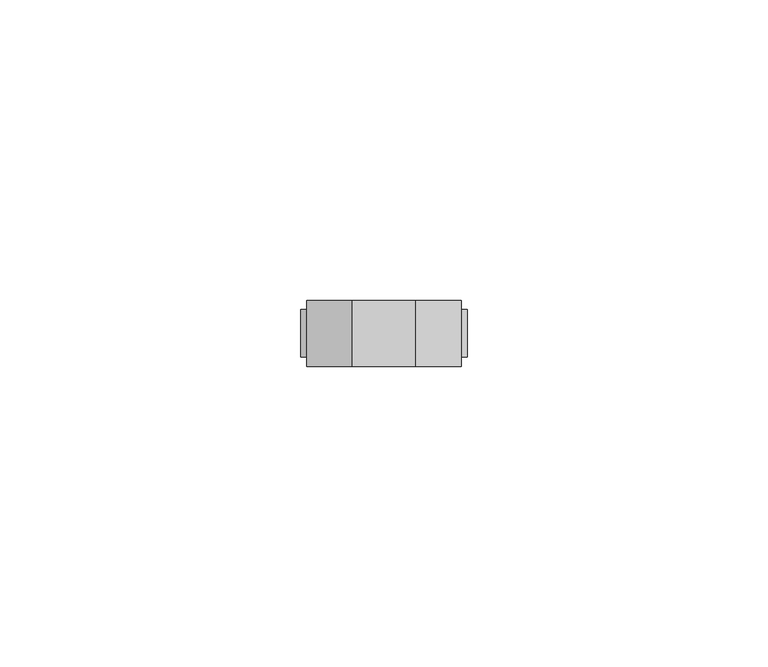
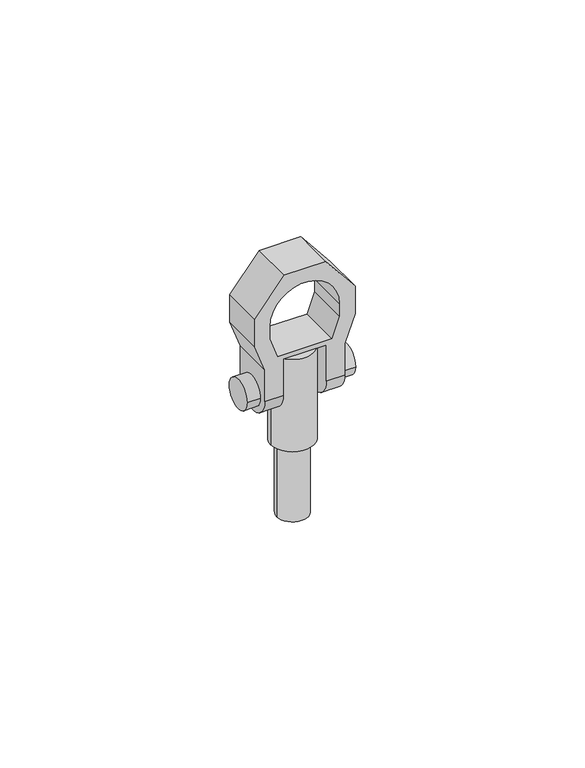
"""IFC4 building model written with IfcOpenShell, lengths in millimetres: proxy geometry, d&b Flying Pin : Flying Pin."""

from ifc_helpers import new_model, si_unit, point, frame, frame_2d, origin, place, context, project, spatial, polyline, circle_curve, trimmed, segment, composite_curve, outline, extrude, source, transform, mapped, element, save
from ifc_brep_helpers import plane_surface, cylinder_surface, revolved_surface, advanced_brep


def communication_devices_ba55d804(model_context):
    return source(origin(), model_context, "Body", "SolidModel", [
        advanced_brep(
        [(-12.8551205, 5.5, 32.3798697), (-12.8551205, 5.5, 39.8221004), (-5.2894267, 5.5, 49.1649541), (5.2894267, 5.5, 49.1649541), (12.8551205, 5.5, 39.8221004), (12.8551205, 5.5, 32.3798697), (10.2317184, 5.5, 25.1721318), (10.2317184, 5.5, 16.7202268), (5.5, 5.5, 16.7202268), (5.5, 5.5, 26.4726394), (-5.5, 5.5, 26.4726394), (-5.5, 5.5, 16.7202268), (-10.2317184, 5.5, 16.7202268), (-10.2317184, 5.5, 25.1721318), (-6.9108191, 5.5, 27.7432536), (6.9108191, 5.5, 27.7432536), (8.8551205, 5.5, 33.0851776), (8.8551205, 5.5, 36.4733828), (-8.8551205, 5.5, 36.4733828), (-8.8551205, 5.5, 33.0851776), (-12.8551205, -5.5, 32.3798697), (-10.2317184, -5.5, 25.1721318), (-10.2317184, -5.5, 16.7202268), (-5.5, -5.5, 16.7202268), (-5.5, -5.5, 26.4726394), (5.5, -5.5, 26.4726394), (5.5, -5.5, 16.7202268), (10.2317184, -5.5, 16.7202268), (10.2317184, -5.5, 25.1721318), (12.8551205, -5.5, 32.3798697), (12.8551205, -5.5, 39.8221004), (5.2894267, -5.5, 49.1649541), (-5.2894267, -5.5, 49.1649541), (-12.8551205, -5.5, 39.8221004), (-6.9108191, -5.5, 27.7432536), (-8.8551205, -5.5, 33.0851776), (-8.8551205, -5.5, 36.4733828), (8.8551205, -5.5, 36.4733828), (8.8551205, -5.5, 33.0851776), (6.9108191, -5.5, 27.7432536)],
        [
            (0, 1),
            (1, 2),
            (2, 3),
            (3, 4),
            (4, 5),
            (5, 6),
            (6, 7),
            (7, 8),
            (8, 9),
            (9, 10),
            (10, 11),
            (11, 12),
            (12, 13),
            (13, 0),
            (14, 15),
            (15, 16),
            (16, 17),
            (17, 18, circle_curve(frame((0.0, 5.5, 36.4733828), z_axis=(0.0, -1.0, 0.0), x_axis=(1.0, 0.0, 0.0)), 8.8551205)),
            (18, 19),
            (19, 14),
            (20, 21),
            (21, 22),
            (22, 23),
            (23, 24),
            (24, 25),
            (25, 26),
            (26, 27),
            (27, 28),
            (28, 29),
            (29, 30),
            (30, 31),
            (31, 32),
            (32, 33),
            (33, 20),
            (34, 35),
            (35, 36),
            (36, 37, circle_curve(frame((0.0, -5.5, 36.4733828), z_axis=(0.0, 1.0, 0.0), x_axis=(1.0, 0.0, 0.0)), 8.8551205)),
            (37, 38),
            (38, 39),
            (39, 34),
            (9, 25),
            (24, 10),
            (8, 26, circle_curve(frame((5.5, 0.0, 16.7202268), z_axis=(-1.0, 0.0, 0.0), x_axis=(0.0, -1.0, 0.0)), 5.5)),
            (6, 28),
            (27, 7, circle_curve(frame((10.2317184, 0.0, 16.7202268), z_axis=(1.0, 0.0, 0.0), x_axis=(0.0, -1.0, 0.0)), 5.5)),
            (5, 29),
            (4, 30),
            (3, 31),
            (2, 32),
            (1, 33),
            (0, 20),
            (13, 21),
            (19, 35),
            (34, 14),
            (18, 36),
            (17, 37),
            (16, 38),
            (15, 39),
            (12, 22, circle_curve(frame((-10.2317184, 0.0, 16.7202268), z_axis=(-1.0, 0.0, 0.0), x_axis=(0.0, -1.0, 0.0)), 5.5)),
            (23, 11, circle_curve(frame((-5.5, 0.0, 16.7202268), z_axis=(1.0, 0.0, 0.0), x_axis=(0.0, -1.0, 0.0)), 5.5)),
        ],
        [
            plane_surface(frame((-10.2317184, 5.5, 25.1721318), z_axis=(0.0, 1.0, 0.0), x_axis=(-0.3420201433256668, 0.0, 0.9396926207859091))),
            plane_surface(frame((-10.2317184, -5.5, 25.1721318), z_axis=(0.0, -1.0, 0.0), x_axis=(0.3420201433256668, 0.0, -0.9396926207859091))),
            plane_surface(frame((-5.5, -5.5, 26.4726394), z_axis=(0.0, 0.0, -1.0), x_axis=(0.0, 1.0, 0.0))),
            plane_surface(frame((5.5, -5.5, 26.4726394), z_axis=(-1.0, 0.0, 0.0), x_axis=(0.0, 1.0, 0.0))),
            plane_surface(frame((10.2317184, -5.5, 16.7202268), z_axis=(1.0, 0.0, 0.0), x_axis=(0.0, 1.0, 0.0))),
            plane_surface(frame((10.2317184, -5.5, 25.1721318), z_axis=(0.9396926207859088, 0.0, -0.3420201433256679), x_axis=(0.0, 1.0, 0.0))),
            plane_surface(frame((12.8551205, -5.5, 32.3798697), z_axis=(1.0, 0.0, 0.0), x_axis=(0.0, 1.0, 0.0))),
            plane_surface(frame((12.8551205, -5.5, 39.8221004), z_axis=(0.7771459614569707, 0.0, 0.6293203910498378), x_axis=(0.0, 1.0, 0.0))),
            plane_surface(frame((5.2894267, -5.5, 49.1649541), z_axis=(0.0, 0.0, 1.0), x_axis=(0.0, 1.0, 0.0))),
            plane_surface(frame((-5.2894267, -5.5, 49.1649541), z_axis=(-0.7771459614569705, 0.0, 0.6293203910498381), x_axis=(0.0, 1.0, 0.0))),
            plane_surface(frame((-12.8551205, -5.5, 39.8221004), z_axis=(-1.0, 0.0, 0.0), x_axis=(0.0, 1.0, 0.0))),
            plane_surface(frame((-12.8551205, -5.5, 32.3798697), z_axis=(-0.9396926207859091, 0.0, -0.3420201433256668), x_axis=(0.0, 1.0, 0.0))),
            plane_surface(frame((-6.9108191, -5.5, 27.7432536), z_axis=(0.939692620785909, 0.0, 0.342020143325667), x_axis=(0.0, 1.0, 0.0))),
            plane_surface(frame((-8.8551205, -5.5, 33.0851776), z_axis=(1.0, 0.0, 0.0), x_axis=(0.0, 1.0, 0.0))),
            revolved_surface(polyline([(8.8551205, 5.5, 36.4733828), (8.8551205, -5.5, 36.4733828)]), (0.0, 0.0, 36.4733828), (0.0, 1.0, 0.0)),
            plane_surface(frame((8.8551205, -5.5, 36.4733828), z_axis=(-1.0, 0.0, 0.0), x_axis=(0.0, 1.0, 0.0))),
            plane_surface(frame((8.8551205, -5.5, 33.0851776), z_axis=(-0.939692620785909, 0.0, 0.3420201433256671), x_axis=(0.0, 1.0, 0.0))),
            plane_surface(frame((6.9108191, -5.5, 27.7432536), z_axis=(0.0, 0.0, 1.0), x_axis=(0.0, 1.0, 0.0))),
            plane_surface(frame((-10.2317184, -5.5, 25.1721318), z_axis=(-1.0, 0.0, 0.0), x_axis=(0.0, 1.0, 0.0))),
            plane_surface(frame((-5.5, -5.5, 16.7202268), z_axis=(1.0, 0.0, 0.0), x_axis=(0.0, 1.0, 0.0))),
            cylinder_surface(frame((5.5, 0.0, 16.7202268), z_axis=(1.0, 0.0, 0.0), x_axis=(0.0, -1.0, 0.0)), 5.5),
            cylinder_surface(frame((-5.5, 0.0, 16.7202268), z_axis=(-1.0, 0.0, 0.0), x_axis=(0.0, -1.0, 0.0)), 5.5),
        ],
        [
            (0, [[1, 2, 3, 4, 5, 6, 7, 8, 9, 10, 11, 12, 13, 14], [15, 16, 17, 18, 19, 20]]),
            (1, [[21, 22, 23, 24, 25, 26, 27, 28, 29, 30, 31, 32, 33, 34], [35, 36, 37, 38, 39, 40]]),
            (2, [[-10, 41, -25, 42]]),
            (3, [[-9, 43, -26, -41]]),
            (4, [[-7, 44, -28, 45]]),
            (5, [[-6, 46, -29, -44]]),
            (6, [[-5, 47, -30, -46]]),
            (7, [[-4, 48, -31, -47]]),
            (8, [[-3, 49, -32, -48]]),
            (9, [[-2, 50, -33, -49]]),
            (10, [[-1, 51, -34, -50]]),
            (11, [[-14, 52, -21, -51]]),
            (12, [[-20, 53, -35, 54]]),
            (13, [[-19, 55, -36, -53]]),
            (14, [[-18, 56, -37, -55]]),
            (15, [[-17, 57, -38, -56]]),
            (16, [[-16, 58, -39, -57]]),
            (17, [[-15, -54, -40, -58]]),
            (18, [[-13, 59, -22, -52]]),
            (19, [[-11, -42, -24, 60]]),
            (20, [[-45, -27, -43, -8]]),
            (21, [[-59, -12, -60, -23]]),
        ],
    ),
        advanced_brep(
        [(5.5, 0.0, 0.0), (-5.5, 0.0, 0.0), (-5.5, 0.0, 24.9683706), (5.5, 0.0, 24.9683706), (4.0, 0.0, 0.0), (-4.0, 0.0, 0.0), (4.0, 0.0, -20.0), (-4.0, 0.0, -20.0), (0.0, 0.0, -20.0), (0.0, 0.0, 24.9683706)],
        [
            (0, 1, circle_curve(frame((0.0, 0.0, 0.0), z_axis=(0.0, 0.0, 1.0), x_axis=(-1.0, 0.0, 0.0)), 5.5)),
            (1, 2),
            (2, 3, circle_curve(frame((0.0, 0.0, 24.9683706), z_axis=(0.0, 0.0, -1.0), x_axis=(-1.0, 0.0, 0.0)), 5.5)),
            (3, 0),
            (1, 0, circle_curve(frame((0.0, 0.0, 0.0), z_axis=(0.0, 0.0, 1.0), x_axis=(-1.0, 0.0, 0.0)), 5.5)),
            (3, 2, circle_curve(frame((0.0, 0.0, 24.9683706), z_axis=(0.0, 0.0, -1.0), x_axis=(-1.0, 0.0, 0.0)), 5.5)),
            (4, 5, circle_curve(frame((0.0, 0.0, 0.0), z_axis=(0.0, 0.0, 1.0), x_axis=(-1.0, 0.0, 0.0)), 4.0)),
            (5, 1),
            (0, 4),
            (5, 4, circle_curve(frame((0.0, 0.0, 0.0), z_axis=(0.0, 0.0, 1.0), x_axis=(-1.0, 0.0, 0.0)), 4.0)),
            (6, 7, circle_curve(frame((0.0, 0.0, -20.0), z_axis=(0.0, 0.0, 1.0), x_axis=(-1.0, 0.0, 0.0)), 4.0)),
            (7, 5),
            (4, 6),
            (7, 6, circle_curve(frame((0.0, 0.0, -20.0), z_axis=(0.0, 0.0, 1.0), x_axis=(-1.0, 0.0, 0.0)), 4.0)),
            (8, 7),
            (6, 8),
            (2, 9),
            (9, 3),
        ],
        [
            cylinder_surface(frame((0.0, 0.0, 49.9683706), z_axis=(0.0, 0.0, -1.0), x_axis=(-1.0, 0.0, 0.0)), 5.5),
            plane_surface(frame((0.0, 0.0, 0.0), z_axis=(0.0, 0.0, -1.0), x_axis=(-1.0, 0.0, 0.0))),
            cylinder_surface(frame((0.0, 0.0, 49.9683706), z_axis=(0.0, 0.0, -1.0), x_axis=(-1.0, 0.0, 0.0)), 4.0),
            plane_surface(frame((0.0, 0.0, -20.0), z_axis=(0.0, 0.0, -1.0), x_axis=(-1.0, 0.0, 0.0))),
            plane_surface(frame((0.0, 0.0, 24.9683706), z_axis=(0.0, 0.0, 1.0), x_axis=(-1.0, 0.0, 0.0))),
        ],
        [
            (0, [[1, 2, 3, 4]]),
            (0, [[5, -4, 6, -2]]),
            (1, [[7, 8, -1, 9]]),
            (1, [[10, -9, -5, -8]]),
            (2, [[11, 12, -7, 13]]),
            (2, [[14, -13, -10, -12]]),
            (3, [[15, -11, 16]]),
            (3, [[-16, -14, -15]]),
            (4, [[-3, 17, 18]]),
            (4, [[-6, -18, -17]]),
        ],
    ),
        extrude(outline(composite_curve([segment(trimmed(circle_curve(frame_2d((0.0, 16.7202268)), 3.9556461), [point((3.9556461, 16.7202268))], [point((-3.9556461, 16.7202268))], False, "CARTESIAN"), True, "CONTINUOUS"), segment(trimmed(circle_curve(frame_2d((0.0, 16.7202268)), 3.9556461), [point((-3.9556461, 16.7202268))], [point((3.9556461, 16.7202268))], False, "CARTESIAN"), True, "CONTINUOUS")], self_intersect=False)), frame((-13.8711555, 0.0, 0.0), z_axis=(1.0, 0.0, 0.0), x_axis=(0.0, 1.0, 0.0)), (0.0, 0.0, 1.0), 3.6394371),
        extrude(outline(composite_curve([segment(trimmed(circle_curve(frame_2d((0.0, 16.7202268)), 3.9556461), [point((3.9556461, 16.7202268))], [point((-3.9556461, 16.7202268))], False, "CARTESIAN"), True, "CONTINUOUS"), segment(trimmed(circle_curve(frame_2d((0.0, 16.7202268)), 3.9556461), [point((-3.9556461, 16.7202268))], [point((3.9556461, 16.7202268))], False, "CARTESIAN"), True, "CONTINUOUS")], self_intersect=False)), frame((10.2317184, 0.0, 0.0), z_axis=(1.0, 0.0, 0.0), x_axis=(0.0, 1.0, 0.0)), (0.0, 0.0, 1.0), 3.6394371),
    ])


if __name__ == "__main__":
    model = new_model("IFC4")
    model_context = context("Model", 3, world=origin())
    ifc_project = project(units=[si_unit("LENGTHUNIT", "METRE", prefix="MILLI")], contexts=[model_context])
    site = spatial("IfcSite", under=ifc_project)
    building = spatial("IfcBuilding", under=site)
    placement = place(None, origin())
    communication_devices_shape = communication_devices_ba55d804(model_context)
    element("IfcBuildingElementProxy", 1, Name="d&b Flying Pin : Flying Pin", ObjectType="d&b Flying Pin : Flying Pin", at=placement, inside=building, context=model_context, shape_type="MappedRepresentation", body=[
        mapped(communication_devices_shape, transform((0.0, 0.0, 0.0), x_axis=(1.0, 0.0, 0.0), y_axis=(0.0, 1.0, 0.0), z_axis=(0.0, 0.0, 1.0))),
    ])
    save(model, "model.ifc")
